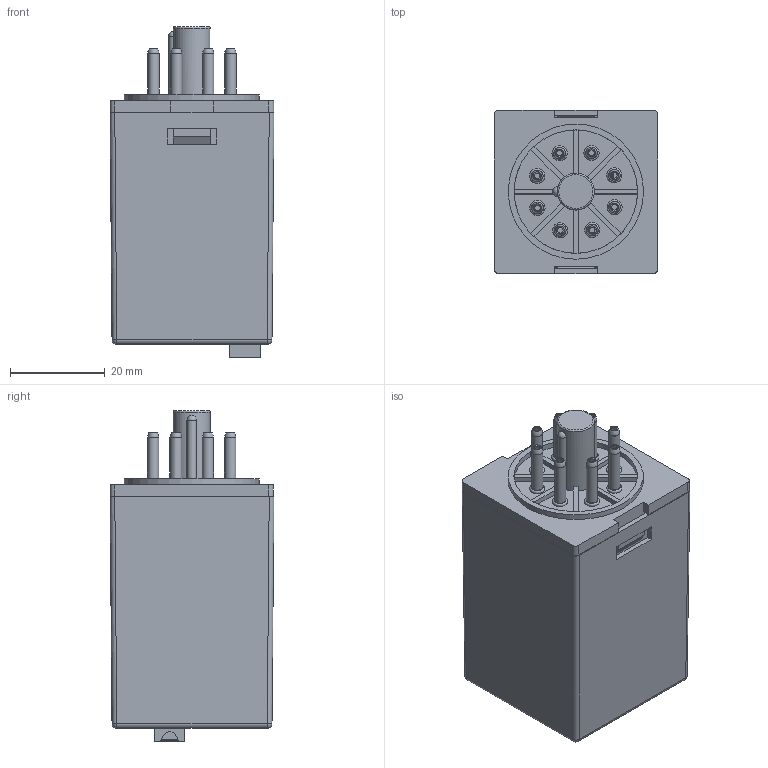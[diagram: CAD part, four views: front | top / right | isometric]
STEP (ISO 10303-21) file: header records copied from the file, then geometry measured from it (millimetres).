
FILE_DESCRIPTION((''),'2; 1');
FILE_NAME('','2026-03-27T11:06:33',(''),(''),'CST STEP Exporter V1.0','Unknown','');
FILE_SCHEMA(('CONFIG_CONTROL_DESIGN'));
Length unit declared in the file: metre
Assembly tree (14 placements, depth 2):
  (unnamed)
    (unnamed)
    (unnamed)
    (unnamed)
    (unnamed)
    (unnamed)
    (unnamed)
    (unnamed)
    (unnamed)
    (unnamed)
    (unnamed)
    (unnamed)
    (unnamed)
    (unnamed)
    (unnamed)
Bounding box: 34.55 x 34.55 x 69.73 mm (x, y, z)
Surface area: 25579.1 mm2
Topology: 1 solids, 14 shells, 224 faces, 623 edges, 412 vertices
Faces by surface type: plane 133, cylinder 45, torus 33, cone 8, sphere 5
Full cylindrical faces by diameter (mm): 1.85 x3, 2.35 x8, 7.8 x1, 26 x1, 28.5 x1
Entity records: 8689 total; most frequent: CARTESIAN_POINT 1183, DIRECTION 1162, ORIENTED_EDGE 992, EDGE_CURVE 559, VERTEX_POINT 408, AXIS2_PLACEMENT_3D 398, VECTOR 366, LINE 366
